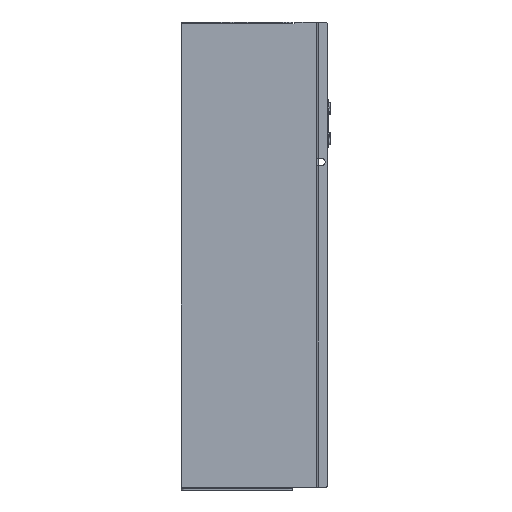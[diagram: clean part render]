
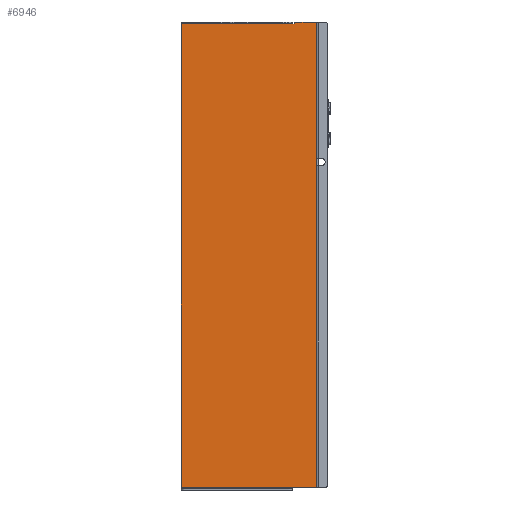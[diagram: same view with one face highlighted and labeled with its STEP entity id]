
A CAD part, left-side view. The second image highlights one B-rep face of the part: STEP entity #6946.
In plain terms, the highlighted planar face has unit normal (-1, 0, 0).
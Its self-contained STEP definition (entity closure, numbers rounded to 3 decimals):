
#82 = EDGE_CURVE ( 'NONE', #2879, #14459, #7089, .T. ) ;
#168 = ORIENTED_EDGE ( 'NONE', *, *, #15646, .F. ) ;
#180 = DIRECTION ( 'NONE',  ( 0., 0., -1. ) ) ;
#226 = ORIENTED_EDGE ( 'NONE', *, *, #82, .T. ) ;
#306 = EDGE_CURVE ( 'NONE', #16299, #7035, #14528, .T. ) ;
#322 = ORIENTED_EDGE ( 'NONE', *, *, #12828, .F. ) ;
#444 = VERTEX_POINT ( 'NONE', #3030 ) ;
#536 = EDGE_CURVE ( 'NONE', #10560, #14157, #9475, .T. ) ;
#1053 = VECTOR ( 'NONE', #6138, 1000. ) ;
#1199 = DIRECTION ( 'NONE',  ( 0., 0., 1. ) ) ;
#1485 = ORIENTED_EDGE ( 'NONE', *, *, #10122, .T. ) ;
#1539 = ORIENTED_EDGE ( 'NONE', *, *, #306, .F. ) ;
#1767 = VECTOR ( 'NONE', #2694, 1000. ) ;
#2219 = DIRECTION ( 'NONE',  ( -1., 0., 0. ) ) ;
#2294 = CARTESIAN_POINT ( 'NONE',  ( 0., 18.7, 193.7 ) ) ;
#2378 = ORIENTED_EDGE ( 'NONE', *, *, #14343, .F. ) ;
#2442 = ORIENTED_EDGE ( 'NONE', *, *, #6030, .F. ) ;
#2534 = CARTESIAN_POINT ( 'NONE',  ( 0., 0., -194. ) ) ;
#2694 = DIRECTION ( 'NONE',  ( 0., -1., 0. ) ) ;
#2814 = CARTESIAN_POINT ( 'NONE',  ( 0., 20.5, 193.8 ) ) ;
#2879 = VERTEX_POINT ( 'NONE', #14598 ) ;
#2893 = VECTOR ( 'NONE', #15802, 1000. ) ;
#2996 = EDGE_LOOP ( 'NONE', ( #1485, #2378, #2442, #226, #6474, #6350, #322, #1539, #15459, #168, #15630 ) ) ;
#3030 = CARTESIAN_POINT ( 'NONE',  ( 0., 18.7, 193.5 ) ) ;
#3353 = AXIS2_PLACEMENT_3D ( 'NONE', #9964, #2219, #11261 ) ;
#3503 = PLANE ( 'NONE',  #3353 ) ;
#3619 = DIRECTION ( 'NONE',  ( 0., 0., -1. ) ) ;
#3721 = CARTESIAN_POINT ( 'NONE',  ( 0., 18.3, 195. ) ) ;
#3744 = DIRECTION ( 'NONE',  ( 0., 0., -1. ) ) ;
#4484 = CARTESIAN_POINT ( 'NONE',  ( 0., 20.5, 193.7 ) ) ;
#5432 = LINE ( 'NONE', #2814, #15306 ) ;
#5465 = VECTOR ( 'NONE', #16660, 1000. ) ;
#5477 = CARTESIAN_POINT ( 'NONE',  ( 0., 20.5, -194. ) ) ;
#5673 = CARTESIAN_POINT ( 'NONE',  ( 0., 113., 195. ) ) ;
#5928 = LINE ( 'NONE', #5477, #2893 ) ;
#6030 = EDGE_CURVE ( 'NONE', #2879, #12340, #15505, .T. ) ;
#6138 = DIRECTION ( 'NONE',  ( 0., 1., 0. ) ) ;
#6350 = ORIENTED_EDGE ( 'NONE', *, *, #536, .T. ) ;
#6474 = ORIENTED_EDGE ( 'NONE', *, *, #7743, .T. ) ;
#6946 = ADVANCED_FACE ( 'NONE', ( #7625 ), #3503, .T. ) ;
#7035 = VERTEX_POINT ( 'NONE', #3721 ) ;
#7089 = LINE ( 'NONE', #5673, #13543 ) ;
#7410 = CARTESIAN_POINT ( 'NONE',  ( 0., 20.5, 193.5 ) ) ;
#7625 = FACE_OUTER_BOUND ( 'NONE', #2996, .T. ) ;
#7661 = CIRCLE ( 'NONE', #11615, 0.2 ) ;
#7743 = EDGE_CURVE ( 'NONE', #14459, #10560, #5928, .T. ) ;
#7900 = LINE ( 'NONE', #7410, #1053 ) ;
#7915 = DIRECTION ( 'NONE',  ( 1., 0., 0. ) ) ;
#8872 = LINE ( 'NONE', #10170, #5465 ) ;
#9018 = CARTESIAN_POINT ( 'NONE',  ( 0., 20.5, 193.8 ) ) ;
#9253 = DIRECTION ( 'NONE',  ( 0., 0., -1. ) ) ;
#9324 = DIRECTION ( 'NONE',  ( 1., 0., 0. ) ) ;
#9375 = CARTESIAN_POINT ( 'NONE',  ( 0., 18.3, 194.8 ) ) ;
#9408 = VERTEX_POINT ( 'NONE', #12409 ) ;
#9475 = LINE ( 'NONE', #15447, #15529 ) ;
#9536 = VERTEX_POINT ( 'NONE', #10200 ) ;
#9680 = LINE ( 'NONE', #11779, #15735 ) ;
#9723 = AXIS2_PLACEMENT_3D ( 'NONE', #9375, #9324, #9253 ) ;
#9805 = CARTESIAN_POINT ( 'NONE',  ( 0., 113., -194. ) ) ;
#9964 = CARTESIAN_POINT ( 'NONE',  ( 0., 0., 195. ) ) ;
#10122 = EDGE_CURVE ( 'NONE', #9408, #11445, #7661, .T. ) ;
#10170 = CARTESIAN_POINT ( 'NONE',  ( 0., 18.5, 195. ) ) ;
#10200 = CARTESIAN_POINT ( 'NONE',  ( 0., 18.5, 193.7 ) ) ;
#10420 = DIRECTION ( 'NONE',  ( 0., -1., 0. ) ) ;
#10560 = VERTEX_POINT ( 'NONE', #2534 ) ;
#11261 = DIRECTION ( 'NONE',  ( 0., 0., -1. ) ) ;
#11352 = DIRECTION ( 'NONE',  ( -1., 0., 0. ) ) ;
#11445 = VERTEX_POINT ( 'NONE', #4484 ) ;
#11558 = EDGE_CURVE ( 'NONE', #444, #9408, #7900, .T. ) ;
#11615 = AXIS2_PLACEMENT_3D ( 'NONE', #15629, #7915, #180 ) ;
#11779 = CARTESIAN_POINT ( 'NONE',  ( 0., 0., 195. ) ) ;
#11911 = AXIS2_PLACEMENT_3D ( 'NONE', #2294, #11352, #3619 ) ;
#12292 = EDGE_CURVE ( 'NONE', #16299, #9536, #8872, .T. ) ;
#12340 = VERTEX_POINT ( 'NONE', #9018 ) ;
#12367 = CIRCLE ( 'NONE', #11911, 0.2 ) ;
#12409 = CARTESIAN_POINT ( 'NONE',  ( 0., 20.3, 193.5 ) ) ;
#12828 = EDGE_CURVE ( 'NONE', #7035, #14157, #9680, .T. ) ;
#12835 = CARTESIAN_POINT ( 'NONE',  ( 0., 18.5, 194.8 ) ) ;
#13004 = CARTESIAN_POINT ( 'NONE',  ( 0., 0., 193.8 ) ) ;
#13543 = VECTOR ( 'NONE', #3744, 1000. ) ;
#14157 = VERTEX_POINT ( 'NONE', #14845 ) ;
#14343 = EDGE_CURVE ( 'NONE', #12340, #11445, #5432, .T. ) ;
#14459 = VERTEX_POINT ( 'NONE', #9805 ) ;
#14528 = CIRCLE ( 'NONE', #9723, 0.2 ) ;
#14598 = CARTESIAN_POINT ( 'NONE',  ( 0., 113., 193.8 ) ) ;
#14845 = CARTESIAN_POINT ( 'NONE',  ( 0., 0., 195. ) ) ;
#15306 = VECTOR ( 'NONE', #15722, 1000. ) ;
#15447 = CARTESIAN_POINT ( 'NONE',  ( 0., 0., 195. ) ) ;
#15459 = ORIENTED_EDGE ( 'NONE', *, *, #12292, .T. ) ;
#15505 = LINE ( 'NONE', #13004, #1767 ) ;
#15529 = VECTOR ( 'NONE', #1199, 1000. ) ;
#15629 = CARTESIAN_POINT ( 'NONE',  ( 0., 20.3, 193.7 ) ) ;
#15630 = ORIENTED_EDGE ( 'NONE', *, *, #11558, .T. ) ;
#15646 = EDGE_CURVE ( 'NONE', #444, #9536, #12367, .T. ) ;
#15722 = DIRECTION ( 'NONE',  ( 0., 0., -1. ) ) ;
#15735 = VECTOR ( 'NONE', #10420, 1000. ) ;
#15802 = DIRECTION ( 'NONE',  ( 0., -1., 0. ) ) ;
#16299 = VERTEX_POINT ( 'NONE', #12835 ) ;
#16660 = DIRECTION ( 'NONE',  ( 0., 0., -1. ) ) ;
